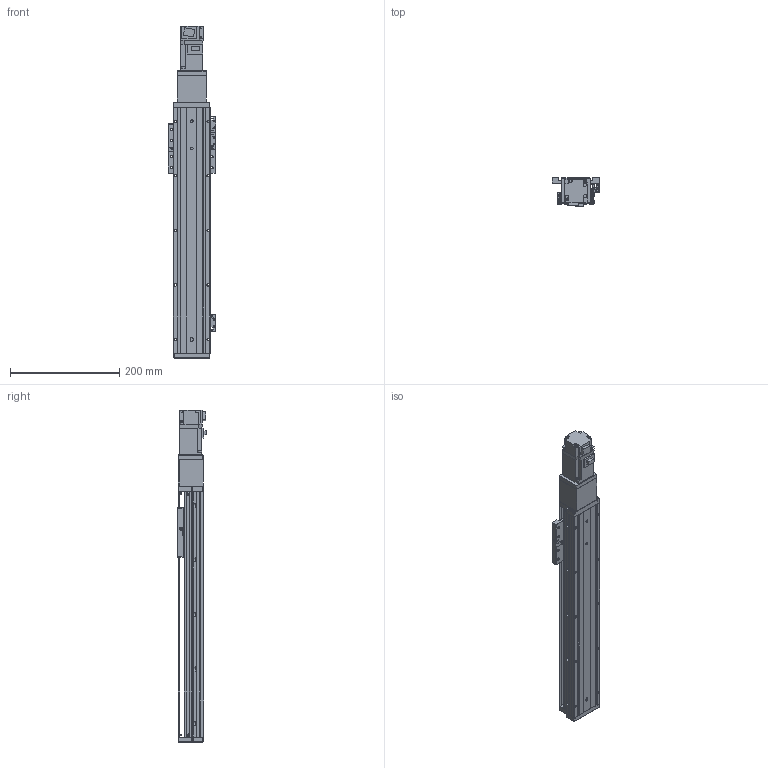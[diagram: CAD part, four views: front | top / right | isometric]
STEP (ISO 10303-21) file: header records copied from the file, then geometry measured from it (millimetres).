
FILE_DESCRIPTION (( 'STEP AP203' ), '1' );
FILE_NAME ('KTHAL60-300-BC-M10-C4L.step', '2022-03-19T08:34:41', ( '微软用户' ), ( '微软中国' ), 'SwSTEP 2.0', 'SolidWorks 2020', '' );
FILE_SCHEMA (( 'CONFIG_CONTROL_DESIGN' ));
Length unit declared in the file: millimetre
Products named in the file (18): KTHAL60-300-BC-M10-C4L; KTHA60-005; GBT77-2000M3-3; GB¨uT 70.2-M3¡Á5_M3¡Á6; GBT 70.1-M3℅6; GBT 70.3-M3℅6; CTHA60-016; CTHA60-006-2_CTHA60-006-2; EE_SX911P_R; CTHA60-027; KTHA60-001_450; CTHA60-017; CTHA60-013; KTHLA60-002; CTHA60-021; HG-KR13（三菱）; KTHA60-004; GBT 70.1-M4×16
Assembly tree (50 placements, depth 2):
  KTHAL60-300-BC-M10-C4L
    KTHA60-001_450
    KTHLA60-002
    KTHA60-004
    KTHA60-005
    GB¨uT 70.2-M3¡Á5_M3¡Á6  x5
    GBT 70.3-M3℅6  x6
    EE_SX911P_R  x3
    CTHA60-017  x3
    CTHA60-021  x2
    GBT 70.1-M4×16  x10
    GBT77-2000M3-3  x6
    GBT 70.1-M3℅6  x6
    CTHA60-016
    CTHA60-006-2_CTHA60-006-2
    CTHA60-027
    CTHA60-013
    HG-KR13（三菱）
Bounding box: 87.82 x 53.3 x 608.6 mm (x, y, z)
Volume: 1115111 mm3; surface area: 293955.1 mm2
Topology: 53 solids, 53 shells, 2160 faces, 5106 edges, 3129 vertices
Faces by surface type: plane 1258, cylinder 513, cone 289, torus 86, sphere 14
Entity records: 35420 total; most frequent: CARTESIAN_POINT 5802, DIRECTION 5690, ORIENTED_EDGE 5416, EDGE_CURVE 2708, VECTOR 1928, LINE 1928, AXIS2_PLACEMENT_3D 1881, VERTEX_POINT 1697
